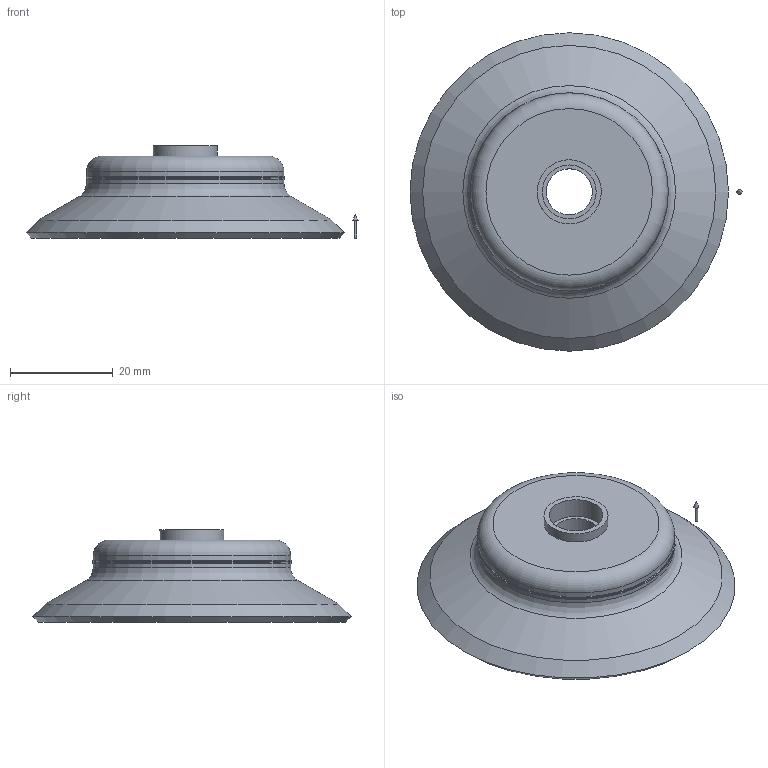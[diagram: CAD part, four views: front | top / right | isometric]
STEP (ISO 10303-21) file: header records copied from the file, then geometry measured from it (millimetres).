
FILE_DESCRIPTION(('STEP AP214'),'1');
FILE_NAME('CA.08.28.012.stp','2019-04-17T13:11:36',(' '),(' '),'Spatial InterOp 3D',' ',' ');
FILE_SCHEMA(('AUTOMOTIVE_DESIGN { 1 0 10303 214 1 1 1 1 }'));
Length unit declared in the file: millimetre
Products named in the file (1): 1
Bounding box: 64.76 x 62.12 x 18 mm (x, y, z)
Volume: 17034.6 mm3; surface area: 7904 mm2
Topology: 2 solids, 2 shells, 27 faces, 49 edges, 30 vertices
Faces by surface type: cylinder 9, plane 8, cone 6, torus 4
Full cylindrical faces by diameter (mm): 0.5 x1, 9 x1, 10.5 x2, 12.5 x2, 38.5 x3
Entity records: 839 total; most frequent: CARTESIAN_POINT 149, DIRECTION 106, AXIS2_PLACEMENT_3D 53, EDGE_LOOP 52, ORIENTED_EDGE 52, FACE_OUTER_BOUND 40, STYLED_ITEM 27, PRESENTATION_STYLE_ASSIGNMENT 27
